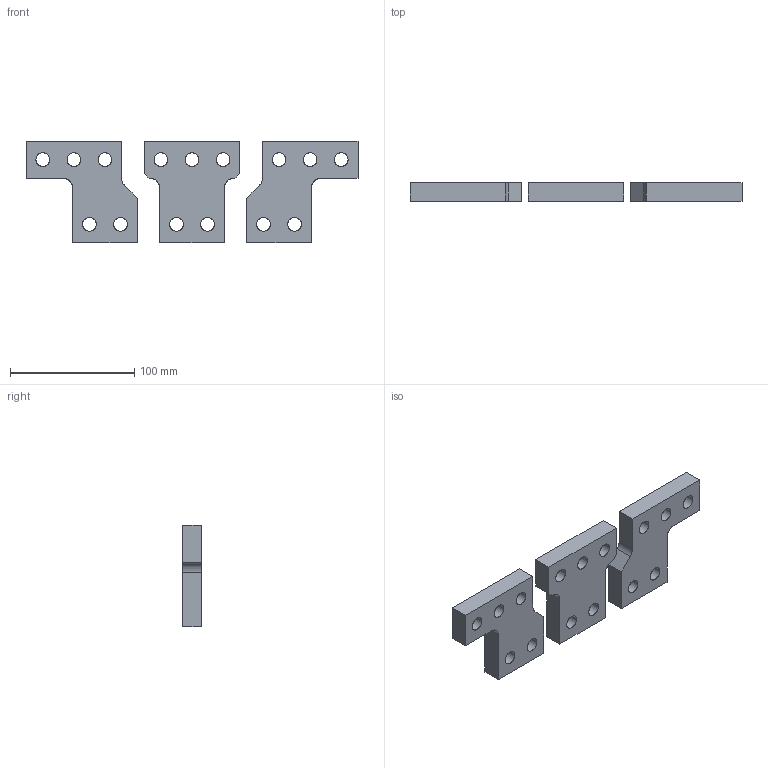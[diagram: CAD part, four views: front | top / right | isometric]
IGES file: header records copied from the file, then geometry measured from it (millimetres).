
Start section: SolidWorks IGES file using analytic representation for surfaces
Global section: file name: \\Brjgs100\DFSWEG\GROUPS\BR_SC_JGS_WA_TECNICO\ENG\Usuarios\Rodrigob\conversão\Disjuntor de Caixa Moldada\Produto\Acessorios ACW\BE-ACW1600\BE ACW1600.IGS; native system: SolidWorks 2018; preprocessor: SolidWorks 2018; author: rodrigob; date: 211110.093939; units: millimetre
Bounding box: 267 x 15 x 82 mm (x, y, z)
Surface area: 49158 mm2 (no closed solid volume)
Topology: 0 solids, 0 shells, 68 faces, 1340 edges, 1340 vertices
Faces by surface type: revolution 36, bspline 32
